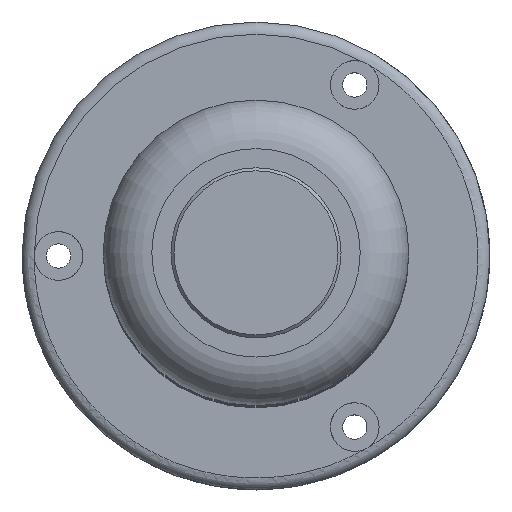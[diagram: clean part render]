
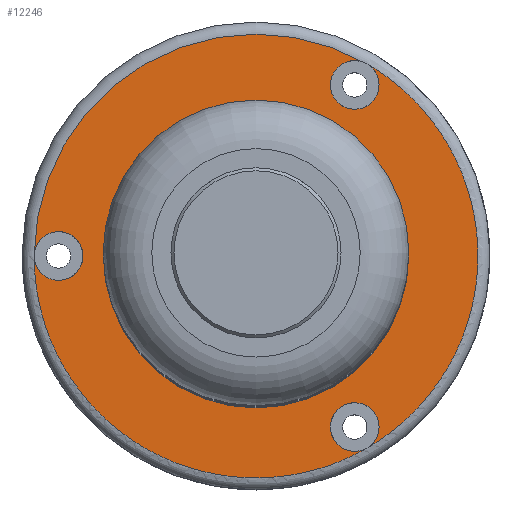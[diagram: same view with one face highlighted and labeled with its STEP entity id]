
A CAD part, top view. The second image highlights one B-rep face of the part: STEP entity #12246.
In plain terms, the highlighted planar face has unit normal (0, 0, -1).
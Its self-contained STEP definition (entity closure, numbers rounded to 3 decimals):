
#10382=PLANE('',#34904);
#12246=ADVANCED_FACE('',(#14332,#14333,#14334,#14335,#14336),#10382,.T.);
#14332=FACE_BOUND('',#14888,.T.);
#14333=FACE_BOUND('',#14889,.T.);
#14334=FACE_BOUND('',#14890,.T.);
#14335=FACE_BOUND('',#14891,.T.);
#14336=FACE_BOUND('',#14892,.T.);
#14888=EDGE_LOOP('',(#17358));
#14889=EDGE_LOOP('',(#17359));
#14890=EDGE_LOOP('',(#17360));
#14891=EDGE_LOOP('',(#17361));
#14892=EDGE_LOOP('',(#17362));
#17358=ORIENTED_EDGE('',*,*,#30020,.T.);
#17359=ORIENTED_EDGE('',*,*,#30021,.T.);
#17360=ORIENTED_EDGE('',*,*,#30022,.T.);
#17361=ORIENTED_EDGE('',*,*,#30023,.T.);
#17362=ORIENTED_EDGE('',*,*,#30010,.F.);
#26826=VERTEX_POINT('',#44804);
#26836=VERTEX_POINT('',#44958);
#26837=VERTEX_POINT('',#44960);
#26838=VERTEX_POINT('',#44962);
#26839=VERTEX_POINT('',#44964);
#30010=EDGE_CURVE('',#26826,#26826,#34749,.T.);
#30020=EDGE_CURVE('',#26836,#26836,#34757,.T.);
#30021=EDGE_CURVE('',#26837,#26837,#34758,.T.);
#30022=EDGE_CURVE('',#26838,#26838,#34759,.T.);
#30023=EDGE_CURVE('',#26839,#26839,#34760,.T.);
#34749=CIRCLE('',#34888,10.75);
#34757=CIRCLE('',#34900,2.);
#34758=CIRCLE('',#34901,2.);
#34759=CIRCLE('',#34902,2.);
#34760=CIRCLE('',#34903,38.);
#34888=AXIS2_PLACEMENT_3D('',#44803,#36978,#36979);
#34900=AXIS2_PLACEMENT_3D('',#44957,#37002,#37003);
#34901=AXIS2_PLACEMENT_3D('',#44959,#37004,#37005);
#34902=AXIS2_PLACEMENT_3D('',#44961,#37006,#37007);
#34903=AXIS2_PLACEMENT_3D('',#44963,#37008,#37009);
#34904=AXIS2_PLACEMENT_3D('',#44965,#37010,#37011);
#36978=DIRECTION('',(0.,0.,-1.));
#36979=DIRECTION('',(-1.,0.,0.));
#37002=DIRECTION('',(0.,0.,1.));
#37003=DIRECTION('',(1.,0.,0.));
#37004=DIRECTION('',(0.,0.,1.));
#37005=DIRECTION('',(1.,0.,0.));
#37006=DIRECTION('',(0.,0.,1.));
#37007=DIRECTION('',(1.,0.,0.));
#37008=DIRECTION('',(0.,0.,-1.));
#37009=DIRECTION('',(-1.,0.,0.));
#37010=DIRECTION('',(0.,0.,-1.));
#37011=DIRECTION('',(1.,0.,0.));
#44803=CARTESIAN_POINT('',(0.,50.,-90.5));
#44804=CARTESIAN_POINT('',(-10.75,50.,-90.5));
#44957=CARTESIAN_POINT('',(16.25,78.146,-90.5));
#44958=CARTESIAN_POINT('',(18.25,78.146,-90.5));
#44959=CARTESIAN_POINT('',(16.25,21.854,-90.5));
#44960=CARTESIAN_POINT('',(18.25,21.854,-90.5));
#44961=CARTESIAN_POINT('',(-32.5,50.,-90.5));
#44962=CARTESIAN_POINT('',(-30.5,50.,-90.5));
#44963=CARTESIAN_POINT('',(0.,50.,-90.5));
#44964=CARTESIAN_POINT('',(-38.,50.,-90.5));
#44965=CARTESIAN_POINT('',(0.,50.,-90.5));
